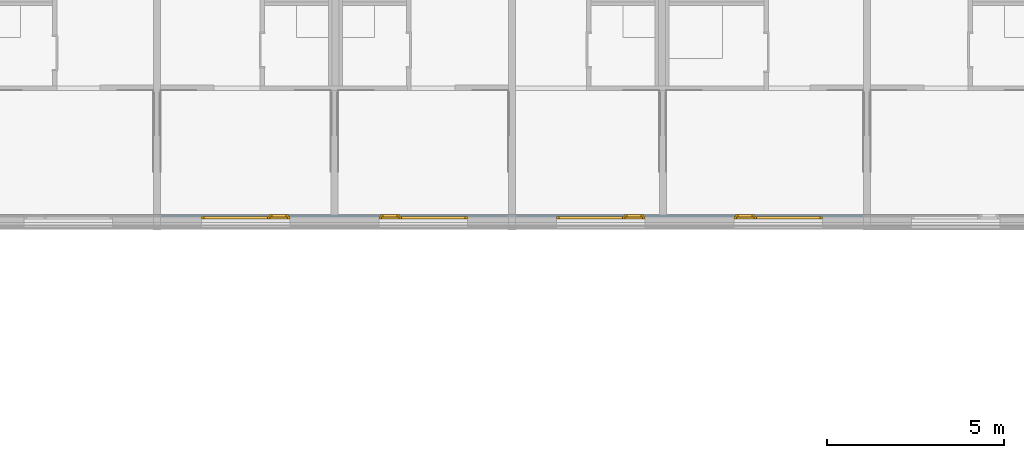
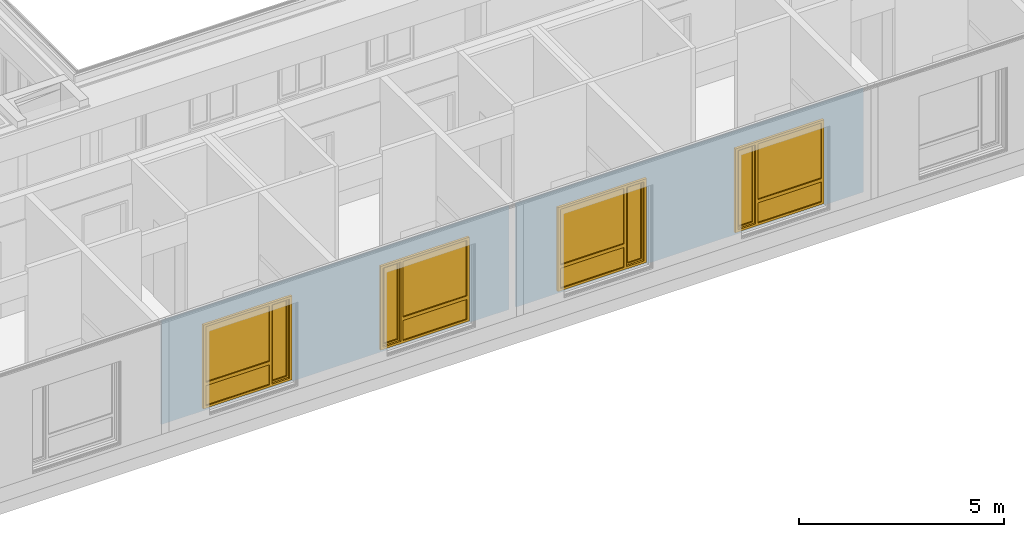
# One storey, part 124 of 207: 4 windows, 4 openings, plus 2 elements that do not belong to this part.
"""IFC4 building model written with IfcOpenShell, lengths in metres."""

from ifc_helpers import new_model, entity, si_unit, converted_unit, derived_unit, frame, frame_2d, origin, origin_with_axes, place, context, subcontext, project, spatial, polyline, rectangle, outline, extrude, closed_shell, open_shell, surface_model, source, transform, mapped, material, element, fill, save


model = new_model("IFC4")

# Units and contexts
model_context = context("Model", 3, precision=1e-05, world=origin())
body_context = subcontext(model_context, "Body", "Model", "MODEL_VIEW")
ifc_project = project(units=[si_unit("LENGTHUNIT", "METRE"), si_unit("AREAUNIT", "SQUARE_METRE"), si_unit("VOLUMEUNIT", "CUBIC_METRE"), si_unit("MASSUNIT", "GRAM", prefix="KILO"), converted_unit("PLANEANGLEUNIT", "DEGREE", entity("IfcPlaneAngleMeasure", 0.0174532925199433), si_unit("PLANEANGLEUNIT", "RADIAN"), dimensions=[0, 0, 0, 0, 0, 0, 0]), derived_unit("THERMALTRANSMITTANCEUNIT", [(si_unit("POWERUNIT", "WATT"), 1), (si_unit("THERMODYNAMICTEMPERATUREUNIT", "KELVIN"), -1), (si_unit("LENGTHUNIT", "METRE"), -2)]), derived_unit("VOLUMETRICFLOWRATEUNIT", [(si_unit("LENGTHUNIT", "METRE"), 3), (converted_unit("TIMEUNIT", "hour", entity("IfcTimeMeasure", 3600.0), si_unit("TIMEUNIT", "SECOND"), dimensions=[0, 0, 1, 0, 0, 0, 0]), -1), (si_unit("LENGTHUNIT", "METRE"), -1)])], contexts=[model_context])

# Site, building, storey
site_placement = place(None, origin())
site = spatial("IfcSite", under=ifc_project, at=site_placement, Name="Psychiatrie Neubau Wunstorf", CompositionType="ELEMENT")
building_placement = place(site_placement, origin())
building = spatial("IfcBuilding", under=site, at=building_placement, Name="Neubau H2 Stationsgebäude", CompositionType="ELEMENT")
storey_placement = place(building_placement, frame((0.0, 0.0, -0.2)))
storey = spatial("IfcBuildingStorey", under=building, at=storey_placement, Name="H2 Ebene 0", CompositionType="ELEMENT", Elevation=-0.2)

# Wall, openings, windows
ifc_material_1 = material(Name="WA-LB")
wall_1_placement = place(storey_placement, frame((95.9, -1.16399999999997, 0.5), z_axis=(0.0, 0.0, 1.0), x_axis=(-1.0, 7.42444654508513e-16, 0.0)))
wall_1 = element("IfcWall", 1, at=wall_1_placement, inside=storey, material=ifc_material_1, context=body_context, shape_type="SweptSolid", body=[
    extrude(rectangle(XDim=9.8, YDim=0.036, at=frame_2d((4.9, 0.018), x_axis=(1.0, 0.0))), origin_with_axes(), (0.0, 0.0, 1.0), 3.1),
])
opening_1_placement = place(wall_1_placement, frame((1.14999995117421, 0.0, 0.1), z_axis=(0.0, 1.0, 0.0), x_axis=(0.0, 0.0, 1.0)))
opening_1 = element("IfcOpeningElement", 2, at=opening_1_placement, cuts=wall_1, Name="Fensteröffnung", ObjectType="Opening", context=body_context, shape_type="SweptSolid", body=[
    extrude(outline(polyline([(2.5, 2.5), (2.5, 0.0), (0.0, 0.0), (0.0, 2.5), (2.5, 2.5)])), origin_with_axes(), (0.0, 0.0, 1.0), 0.036),
])
opening_2_placement = place(wall_1_placement, frame((6.14999995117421, 0.0, 0.1), z_axis=(0.0, 1.0, 0.0), x_axis=(0.0, 0.0, 1.0)))
opening_2 = element("IfcOpeningElement", 3, at=opening_2_placement, cuts=wall_1, Name="Fensteröffnung", ObjectType="Opening", context=body_context, shape_type="SweptSolid", body=[
    extrude(outline(polyline([(2.5, 2.5), (2.5, 0.0), (0.0, 0.0), (0.0, 2.5), (2.5, 2.5)])), origin_with_axes(), (0.0, 0.0, 1.0), 0.036),
])
shared_shape_1 = source(origin_with_axes(), body_context, "Body", "SurfaceModel", [
    surface_model("IfcShellBasedSurfaceModel", [(2.5, 0.0, 2.5), (2.5, 0.0, 0.0), (2.43, 0.0, 0.0), (2.43, 0.0, 2.5), (2.5, 0.0699999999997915, 0.0), (2.5, 0.0699999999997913, 2.5), (2.43, 0.0699999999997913, 2.5), (2.43, 0.0699999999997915, 0.0)], [closed_shell([[[0, 1, 2, 3]], [[4, 5, 6, 7]], [[1, 0, 5, 4]], [[2, 1, 4, 7]], [[3, 2, 7, 6]], [[0, 3, 6, 5]]], orient=[[False], [False], [False], [False], [False], [False]])]),
    surface_model("IfcShellBasedSurfaceModel", [(0.07, 0.0, 2.5), (0.07, 0.0, 0.0), (0.0, 0.0, 0.0), (0.0, 0.0, 2.5), (0.07, 0.0699999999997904, 0.0), (0.07, 0.0699999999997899, 2.5), (0.0, 0.0699999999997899, 2.5), (0.0, 0.0699999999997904, 0.0)], [closed_shell([[[0, 1, 2, 3]], [[4, 5, 6, 7]], [[1, 0, 5, 4]], [[2, 1, 4, 7]], [[3, 2, 7, 6]], [[0, 3, 6, 5]]], orient=[[False], [False], [False], [False], [False], [False]])]),
    surface_model("IfcShellBasedSurfaceModel", [(2.43, 0.0, 0.07), (2.43, 0.0, 0.0), (0.07, 0.0, 0.0), (0.07, 0.0, 0.07), (2.43, 0.0699999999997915, 0.0), (2.43, 0.0699999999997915, 0.07), (0.07, 0.0699999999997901, 0.07), (0.07, 0.0699999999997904, 0.0)], [closed_shell([[[0, 1, 2, 3]], [[4, 5, 6, 7]], [[1, 0, 5, 4]], [[2, 1, 4, 7]], [[3, 2, 7, 6]], [[0, 3, 6, 5]]], orient=[[False], [False], [False], [False], [False], [False]])]),
    surface_model("IfcShellBasedSurfaceModel", [(2.43, 0.0, 2.5), (2.43, 0.0, 2.43), (0.07, 0.0, 2.43), (0.07, 0.0, 2.5), (2.43, 0.0699999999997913, 2.43), (2.43, 0.0699999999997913, 2.5), (0.07, 0.0699999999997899, 2.5), (0.07, 0.0699999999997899, 2.43)], [closed_shell([[[0, 1, 2, 3]], [[4, 5, 6, 7]], [[1, 0, 5, 4]], [[2, 1, 4, 7]], [[3, 2, 7, 6]], [[0, 3, 6, 5]]], orient=[[False], [False], [False], [False], [False], [False]])]),
    surface_model("IfcShellBasedSurfaceModel", [(1.934285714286, 0.0, 2.43), (1.934285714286, 0.0, 0.07), (1.864285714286, 0.0, 0.07), (1.864285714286, 0.0, 2.43), (1.934285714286, 0.0699999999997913, 0.07), (1.934285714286, 0.0699999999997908, 2.43), (1.864285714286, 0.0699999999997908, 2.43), (1.864285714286, 0.0699999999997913, 0.07)], [closed_shell([[[0, 1, 2, 3]], [[4, 5, 6, 7]], [[1, 0, 5, 4]], [[2, 1, 4, 7]], [[3, 2, 7, 6]], [[0, 3, 6, 5]]], orient=[[False], [False], [False], [False], [False], [False]])]),
    surface_model("IfcShellBasedSurfaceModel", [(2.45, -0.0500000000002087, 2.45), (2.45, -0.0500000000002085, 0.05), (2.38, -0.0500000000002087, 0.05), (2.38, -0.050000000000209, 2.45), (2.45, 0.0199999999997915, 0.05), (2.45, 0.0199999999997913, 2.45), (2.38, 0.019999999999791, 2.45), (2.38, 0.0199999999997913, 0.05)], [closed_shell([[[0, 1, 2, 3]], [[4, 5, 6, 7]], [[1, 0, 5, 4]], [[2, 1, 4, 7]], [[3, 2, 7, 6]], [[0, 3, 6, 5]]], orient=[[False], [False], [False], [False], [False], [False]])]),
    surface_model("IfcShellBasedSurfaceModel", [(1.984285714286, -0.0500000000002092, 2.45), (1.984285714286, -0.0500000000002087, 0.05), (1.914285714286, -0.0500000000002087, 0.05), (1.914285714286, -0.0500000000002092, 2.45), (1.984285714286, 0.0199999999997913, 0.05), (1.984285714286, 0.0199999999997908, 2.45), (1.914285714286, 0.0199999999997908, 2.45), (1.914285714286, 0.0199999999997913, 0.05)], [closed_shell([[[0, 1, 2, 3]], [[4, 5, 6, 7]], [[1, 0, 5, 4]], [[2, 1, 4, 7]], [[3, 2, 7, 6]], [[0, 3, 6, 5]]], orient=[[False], [False], [False], [False], [False], [False]])]),
    surface_model("IfcShellBasedSurfaceModel", [(2.38, -0.0500000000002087, 0.12), (2.38, -0.0500000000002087, 0.05), (1.984285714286, -0.0500000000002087, 0.05), (1.984285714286, -0.0500000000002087, 0.12), (2.38, 0.0199999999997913, 0.05), (2.38, 0.0199999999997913, 0.12), (1.984285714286, 0.019999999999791, 0.12), (1.984285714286, 0.0199999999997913, 0.05)], [closed_shell([[[0, 1, 2, 3]], [[4, 5, 6, 7]], [[1, 0, 5, 4]], [[2, 1, 4, 7]], [[3, 2, 7, 6]], [[0, 3, 6, 5]]], orient=[[False], [False], [False], [False], [False], [False]])]),
    surface_model("IfcShellBasedSurfaceModel", [(2.38, -0.050000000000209, 2.45), (2.38, -0.050000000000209, 2.38), (1.984285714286, -0.0500000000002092, 2.38), (1.984285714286, -0.0500000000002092, 2.45), (2.38, 0.019999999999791, 2.38), (2.38, 0.019999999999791, 2.45), (1.984285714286, 0.0199999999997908, 2.45), (1.984285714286, 0.0199999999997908, 2.38)], [closed_shell([[[0, 1, 2, 3]], [[4, 5, 6, 7]], [[1, 0, 5, 4]], [[2, 1, 4, 7]], [[3, 2, 7, 6]], [[0, 3, 6, 5]]], orient=[[False], [False], [False], [False], [False], [False]])]),
    surface_model("IfcShellBasedSurfaceModel", [(1.864285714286, 0.0, 0.77), (1.864285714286, 0.0, 0.67), (0.07, 0.0, 0.67), (0.07, 0.0, 0.77), (1.864285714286, 0.069999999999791, 0.67), (1.864285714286, 0.069999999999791, 0.77), (0.07, 0.0699999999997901, 0.77), (0.07, 0.0699999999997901, 0.67)], [closed_shell([[[0, 1, 2, 3]], [[4, 5, 6, 7]], [[1, 0, 5, 4]], [[2, 1, 4, 7]], [[3, 2, 7, 6]], [[0, 3, 6, 5]]], orient=[[False], [False], [False], [False], [False], [False]])]),
    surface_model("IfcShellBasedSurfaceModel", [(2.38, -0.0150000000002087, 0.12), (1.984285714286, -0.0150000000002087, 0.12), (1.984285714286, -0.0150000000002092, 2.38), (2.38, -0.015000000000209, 2.38)], [open_shell([[[0, 1, 2, 3]]], orient=[[False]])]),
    surface_model("IfcShellBasedSurfaceModel", [(1.864285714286, 0.0349999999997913, 0.07), (0.07, 0.0349999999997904, 0.07), (0.07, 0.0349999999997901, 0.67), (1.864285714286, 0.034999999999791, 0.67)], [open_shell([[[0, 1, 2, 3]]], orient=[[False]])]),
    surface_model("IfcShellBasedSurfaceModel", [(1.864285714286, 0.034999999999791, 0.77), (0.07, 0.0349999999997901, 0.77), (0.07, 0.0349999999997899, 2.43), (1.864285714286, 0.0349999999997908, 2.43)], [open_shell([[[0, 1, 2, 3]]], orient=[[False]])]),
])
window_1_placement = place(opening_1_placement, frame((0.0, 0.0, 0.03), z_axis=(1.0, 0.0, 0.0), x_axis=(0.0, 1.0, 1.48488930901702e-17)))
window_1 = element("IfcWindow", 4, at=window_1_placement, inside=storey, Name="Fenster", OverallHeight=2.5, OverallWidth=2.5, PartitioningType="USERDEFINED", PredefinedType="WINDOW", context=body_context, shape_type="MappedRepresentation", body=[
    mapped(shared_shape_1, transform((0.0, 0.0, 0.0), x_axis=(1.0, 0.0, 0.0), y_axis=(0.0, 1.0, 0.0), z_axis=(0.0, 0.0, 1.0), scale=1.0)),
])
fill(opening_1, window_1)
shared_shape_2 = source(origin_with_axes(), body_context, "Body", "SurfaceModel", [
    surface_model("IfcShellBasedSurfaceModel", [(0.0, 0.0, 2.5), (0.07, 0.0, 2.5), (0.07, 0.0, 0.0), (0.0, 0.0, 0.0), (0.0, 0.0699999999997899, 0.0), (0.07, 0.0699999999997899, 0.0), (0.07, 0.0699999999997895, 2.5), (0.0, 0.0699999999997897, 2.5)], [closed_shell([[[0, 1, 2, 3]], [[4, 5, 6, 7]], [[3, 4, 7, 0]], [[2, 5, 4, 3]], [[1, 6, 5, 2]], [[0, 7, 6, 1]]], orient=[[False], [False], [False], [False], [False], [False]])]),
    surface_model("IfcShellBasedSurfaceModel", [(2.43, 0.0, 2.5), (2.5, 0.0, 2.5), (2.5, 0.0, 0.0), (2.43, 0.0, 0.0), (2.43, 0.069999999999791, 0.0), (2.5, 0.069999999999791, 0.0), (2.5, 0.0699999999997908, 2.5), (2.43, 0.0699999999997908, 2.5)], [closed_shell([[[0, 1, 2, 3]], [[4, 5, 6, 7]], [[3, 4, 7, 0]], [[2, 5, 4, 3]], [[1, 6, 5, 2]], [[0, 7, 6, 1]]], orient=[[False], [False], [False], [False], [False], [False]])]),
    surface_model("IfcShellBasedSurfaceModel", [(0.07, 0.0, 0.07), (2.43, 0.0, 0.07), (2.43, 0.0, 0.0), (0.07, 0.0, 0.0), (0.07, 0.0699999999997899, 0.0), (2.43, 0.069999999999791, 0.0), (2.43, 0.069999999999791, 0.07), (0.07, 0.0699999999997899, 0.07)], [closed_shell([[[0, 1, 2, 3]], [[4, 5, 6, 7]], [[3, 4, 7, 0]], [[2, 5, 4, 3]], [[1, 6, 5, 2]], [[0, 7, 6, 1]]], orient=[[False], [False], [False], [False], [False], [False]])]),
    surface_model("IfcShellBasedSurfaceModel", [(0.07, 0.0, 2.5), (2.43, 0.0, 2.5), (2.43, 0.0, 2.43), (0.07, 0.0, 2.43), (0.07, 0.0699999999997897, 2.43), (2.43, 0.0699999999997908, 2.43), (2.43, 0.0699999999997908, 2.5), (0.07, 0.0699999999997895, 2.5)], [closed_shell([[[0, 1, 2, 3]], [[4, 5, 6, 7]], [[3, 4, 7, 0]], [[2, 5, 4, 3]], [[1, 6, 5, 2]], [[0, 7, 6, 1]]], orient=[[False], [False], [False], [False], [False], [False]])]),
    surface_model("IfcShellBasedSurfaceModel", [(0.565714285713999, 0.0, 2.43), (0.635714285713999, 0.0, 2.43), (0.635714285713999, 0.0, 0.07), (0.565714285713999, 0.0, 0.07), (0.565714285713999, 0.0699999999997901, 0.07), (0.635714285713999, 0.0699999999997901, 0.07), (0.635714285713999, 0.0699999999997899, 2.43), (0.565714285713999, 0.0699999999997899, 2.43)], [closed_shell([[[0, 1, 2, 3]], [[4, 5, 6, 7]], [[3, 4, 7, 0]], [[2, 5, 4, 3]], [[1, 6, 5, 2]], [[0, 7, 6, 1]]], orient=[[False], [False], [False], [False], [False], [False]])]),
    surface_model("IfcShellBasedSurfaceModel", [(0.05, -0.0500000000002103, 2.45), (0.12, -0.0500000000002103, 2.45), (0.12, -0.0500000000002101, 0.05), (0.05, -0.0500000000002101, 0.05), (0.05, 0.0199999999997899, 0.05), (0.12, 0.0199999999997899, 0.05), (0.12, 0.0199999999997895, 2.45), (0.05, 0.0199999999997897, 2.45)], [closed_shell([[[0, 1, 2, 3]], [[4, 5, 6, 7]], [[3, 4, 7, 0]], [[2, 5, 4, 3]], [[1, 6, 5, 2]], [[0, 7, 6, 1]]], orient=[[False], [False], [False], [False], [False], [False]])]),
    surface_model("IfcShellBasedSurfaceModel", [(0.515714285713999, -0.0500000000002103, 2.45), (0.585714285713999, -0.0500000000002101, 2.45), (0.585714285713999, -0.0500000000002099, 0.05), (0.515714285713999, -0.0500000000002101, 0.05), (0.515714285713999, 0.0199999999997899, 0.05), (0.585714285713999, 0.0199999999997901, 0.05), (0.585714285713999, 0.0199999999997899, 2.45), (0.515714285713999, 0.0199999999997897, 2.45)], [closed_shell([[[0, 1, 2, 3]], [[4, 5, 6, 7]], [[3, 4, 7, 0]], [[2, 5, 4, 3]], [[1, 6, 5, 2]], [[0, 7, 6, 1]]], orient=[[False], [False], [False], [False], [False], [False]])]),
    surface_model("IfcShellBasedSurfaceModel", [(0.12, -0.0500000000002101, 0.12), (0.515714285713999, -0.0500000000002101, 0.12), (0.515714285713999, -0.0500000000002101, 0.05), (0.12, -0.0500000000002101, 0.05), (0.12, 0.0199999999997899, 0.05), (0.515714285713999, 0.0199999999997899, 0.05), (0.515714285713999, 0.0199999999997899, 0.12), (0.12, 0.0199999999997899, 0.12)], [closed_shell([[[0, 1, 2, 3]], [[4, 5, 6, 7]], [[3, 4, 7, 0]], [[2, 5, 4, 3]], [[1, 6, 5, 2]], [[0, 7, 6, 1]]], orient=[[False], [False], [False], [False], [False], [False]])]),
    surface_model("IfcShellBasedSurfaceModel", [(0.12, -0.0500000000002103, 2.45), (0.515714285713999, -0.0500000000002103, 2.45), (0.515714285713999, -0.0500000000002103, 2.38), (0.12, -0.0500000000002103, 2.38), (0.12, 0.0199999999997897, 2.38), (0.515714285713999, 0.0199999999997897, 2.38), (0.515714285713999, 0.0199999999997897, 2.45), (0.12, 0.0199999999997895, 2.45)], [closed_shell([[[0, 1, 2, 3]], [[4, 5, 6, 7]], [[3, 4, 7, 0]], [[2, 5, 4, 3]], [[1, 6, 5, 2]], [[0, 7, 6, 1]]], orient=[[False], [False], [False], [False], [False], [False]])]),
    surface_model("IfcShellBasedSurfaceModel", [(0.635714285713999, 0.0, 0.77), (2.43, 0.0, 0.77), (2.43, 0.0, 0.67), (0.635714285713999, 0.0, 0.67), (0.635714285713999, 0.0699999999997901, 0.67), (2.43, 0.069999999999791, 0.67), (2.43, 0.069999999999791, 0.77), (0.635714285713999, 0.0699999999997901, 0.77)], [closed_shell([[[0, 1, 2, 3]], [[4, 5, 6, 7]], [[3, 4, 7, 0]], [[2, 5, 4, 3]], [[1, 6, 5, 2]], [[0, 7, 6, 1]]], orient=[[False], [False], [False], [False], [False], [False]])]),
    surface_model("IfcShellBasedSurfaceModel", [(0.12, -0.0150000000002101, 0.12), (0.12, -0.0150000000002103, 2.38), (0.515714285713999, -0.0150000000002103, 2.38), (0.515714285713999, -0.0150000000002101, 0.12)], [open_shell([[[0, 1, 2, 3]]], orient=[[False]])]),
    surface_model("IfcShellBasedSurfaceModel", [(0.635714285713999, 0.0349999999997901, 0.07), (0.635714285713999, 0.0349999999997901, 0.67), (2.43, 0.034999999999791, 0.67), (2.43, 0.034999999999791, 0.07)], [open_shell([[[0, 1, 2, 3]]], orient=[[False]])]),
    surface_model("IfcShellBasedSurfaceModel", [(0.635714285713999, 0.0349999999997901, 0.77), (0.635714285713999, 0.0349999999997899, 2.43), (2.43, 0.0349999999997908, 2.43), (2.43, 0.034999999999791, 0.77)], [open_shell([[[0, 1, 2, 3]]], orient=[[False]])]),
])
window_2_placement = place(opening_2_placement, frame((0.0, 0.0, 0.03), z_axis=(1.0, 0.0, 0.0), x_axis=(0.0, 1.0, 1.48488930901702e-17)))
window_2 = element("IfcWindow", 5, at=window_2_placement, inside=storey, Name="Fenster", OverallHeight=2.5, OverallWidth=2.5, PartitioningType="USERDEFINED", PredefinedType="WINDOW", context=body_context, shape_type="MappedRepresentation", body=[
    mapped(shared_shape_2, transform((0.0, 0.0, 0.0), x_axis=(1.0, 0.0, 0.0), y_axis=(0.0, 1.0, 0.0), z_axis=(0.0, 0.0, 1.0), scale=1.0)),
])
fill(opening_2, window_2)

ifc_material_2 = material(Name="WA-LB")
wall_2_placement = place(storey_placement, frame((85.9, -1.16399999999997, 0.5), z_axis=(0.0, 0.0, 1.0), x_axis=(-1.0, 7.42444654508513e-16, 0.0)))
wall_2 = element("IfcWall", 6, at=wall_2_placement, inside=storey, material=ifc_material_2, context=body_context, shape_type="SweptSolid", body=[
    extrude(rectangle(XDim=9.8, YDim=0.036, at=frame_2d((4.9, 0.018), x_axis=(1.0, 0.0))), origin_with_axes(), (0.0, 0.0, 1.0), 3.1),
])
opening_3_placement = place(wall_2_placement, frame((1.14999995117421, 0.0, 0.1), z_axis=(0.0, 1.0, 0.0), x_axis=(0.0, 0.0, 1.0)))
opening_3 = element("IfcOpeningElement", 7, at=opening_3_placement, cuts=wall_2, Name="Fensteröffnung", ObjectType="Opening", context=body_context, shape_type="SweptSolid", body=[
    extrude(outline(polyline([(2.5, 2.5), (2.5, 0.0), (0.0, 0.0), (0.0, 2.5), (2.5, 2.5)])), origin_with_axes(), (0.0, 0.0, 1.0), 0.036),
])
opening_4_placement = place(wall_2_placement, frame((6.14999995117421, 0.0, 0.1), z_axis=(0.0, 1.0, 0.0), x_axis=(0.0, 0.0, 1.0)))
opening_4 = element("IfcOpeningElement", 8, at=opening_4_placement, cuts=wall_2, Name="Fensteröffnung", ObjectType="Opening", context=body_context, shape_type="SweptSolid", body=[
    extrude(outline(polyline([(2.5, 2.5), (2.5, 0.0), (0.0, 0.0), (0.0, 2.5), (2.5, 2.5)])), origin_with_axes(), (0.0, 0.0, 1.0), 0.036),
])
shared_shape_3 = source(origin_with_axes(), body_context, "Body", "SurfaceModel", [
    surface_model("IfcShellBasedSurfaceModel", [(2.5, 0.0, 2.5), (2.5, 0.0, 0.0), (2.43, 0.0, 0.0), (2.43, 0.0, 2.5), (2.5, 0.0699999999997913, 0.0), (2.5, 0.069999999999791, 2.5), (2.43, 0.069999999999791, 2.5), (2.43, 0.0699999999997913, 0.0)], [closed_shell([[[0, 1, 2, 3]], [[4, 5, 6, 7]], [[1, 0, 5, 4]], [[2, 1, 4, 7]], [[3, 2, 7, 6]], [[0, 3, 6, 5]]], orient=[[False], [False], [False], [False], [False], [False]])]),
    surface_model("IfcShellBasedSurfaceModel", [(0.07, 0.0, 2.5), (0.07, 0.0, 0.0), (0.0, 0.0, 0.0), (0.0, 0.0, 2.5), (0.07, 0.0699999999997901, 0.0), (0.07, 0.0699999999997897, 2.5), (0.0, 0.0699999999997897, 2.5), (0.0, 0.0699999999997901, 0.0)], [closed_shell([[[0, 1, 2, 3]], [[4, 5, 6, 7]], [[1, 0, 5, 4]], [[2, 1, 4, 7]], [[3, 2, 7, 6]], [[0, 3, 6, 5]]], orient=[[False], [False], [False], [False], [False], [False]])]),
    surface_model("IfcShellBasedSurfaceModel", [(2.43, 0.0, 0.07), (2.43, 0.0, 0.0), (0.07, 0.0, 0.0), (0.07, 0.0, 0.07), (2.43, 0.0699999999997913, 0.0), (2.43, 0.0699999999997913, 0.07), (0.07, 0.0699999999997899, 0.07), (0.07, 0.0699999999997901, 0.0)], [closed_shell([[[0, 1, 2, 3]], [[4, 5, 6, 7]], [[1, 0, 5, 4]], [[2, 1, 4, 7]], [[3, 2, 7, 6]], [[0, 3, 6, 5]]], orient=[[False], [False], [False], [False], [False], [False]])]),
    surface_model("IfcShellBasedSurfaceModel", [(2.43, 0.0, 2.5), (2.43, 0.0, 2.43), (0.07, 0.0, 2.43), (0.07, 0.0, 2.5), (2.43, 0.069999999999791, 2.43), (2.43, 0.069999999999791, 2.5), (0.07, 0.0699999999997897, 2.5), (0.07, 0.0699999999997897, 2.43)], [closed_shell([[[0, 1, 2, 3]], [[4, 5, 6, 7]], [[1, 0, 5, 4]], [[2, 1, 4, 7]], [[3, 2, 7, 6]], [[0, 3, 6, 5]]], orient=[[False], [False], [False], [False], [False], [False]])]),
    surface_model("IfcShellBasedSurfaceModel", [(1.934285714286, 0.0, 2.43), (1.934285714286, 0.0, 0.07), (1.864285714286, 0.0, 0.07), (1.864285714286, 0.0, 2.43), (1.934285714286, 0.069999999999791, 0.07), (1.934285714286, 0.0699999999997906, 2.43), (1.864285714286, 0.0699999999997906, 2.43), (1.864285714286, 0.069999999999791, 0.07)], [closed_shell([[[0, 1, 2, 3]], [[4, 5, 6, 7]], [[1, 0, 5, 4]], [[2, 1, 4, 7]], [[3, 2, 7, 6]], [[0, 3, 6, 5]]], orient=[[False], [False], [False], [False], [False], [False]])]),
    surface_model("IfcShellBasedSurfaceModel", [(2.45, -0.050000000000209, 2.45), (2.45, -0.0500000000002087, 0.05), (2.38, -0.050000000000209, 0.05), (2.38, -0.0500000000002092, 2.45), (2.45, 0.0199999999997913, 0.05), (2.45, 0.019999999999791, 2.45), (2.38, 0.0199999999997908, 2.45), (2.38, 0.019999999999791, 0.05)], [closed_shell([[[0, 1, 2, 3]], [[4, 5, 6, 7]], [[1, 0, 5, 4]], [[2, 1, 4, 7]], [[3, 2, 7, 6]], [[0, 3, 6, 5]]], orient=[[False], [False], [False], [False], [False], [False]])]),
    surface_model("IfcShellBasedSurfaceModel", [(1.984285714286, -0.0500000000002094, 2.45), (1.984285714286, -0.050000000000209, 0.05), (1.914285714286, -0.050000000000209, 0.05), (1.914285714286, -0.0500000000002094, 2.45), (1.984285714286, 0.019999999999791, 0.05), (1.984285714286, 0.0199999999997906, 2.45), (1.914285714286, 0.0199999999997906, 2.45), (1.914285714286, 0.019999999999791, 0.05)], [closed_shell([[[0, 1, 2, 3]], [[4, 5, 6, 7]], [[1, 0, 5, 4]], [[2, 1, 4, 7]], [[3, 2, 7, 6]], [[0, 3, 6, 5]]], orient=[[False], [False], [False], [False], [False], [False]])]),
    surface_model("IfcShellBasedSurfaceModel", [(2.38, -0.050000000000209, 0.12), (2.38, -0.050000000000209, 0.05), (1.984285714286, -0.050000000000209, 0.05), (1.984285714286, -0.050000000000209, 0.12), (2.38, 0.019999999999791, 0.05), (2.38, 0.019999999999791, 0.12), (1.984285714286, 0.0199999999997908, 0.12), (1.984285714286, 0.019999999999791, 0.05)], [closed_shell([[[0, 1, 2, 3]], [[4, 5, 6, 7]], [[1, 0, 5, 4]], [[2, 1, 4, 7]], [[3, 2, 7, 6]], [[0, 3, 6, 5]]], orient=[[False], [False], [False], [False], [False], [False]])]),
    surface_model("IfcShellBasedSurfaceModel", [(2.38, -0.0500000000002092, 2.45), (2.38, -0.0500000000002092, 2.38), (1.984285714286, -0.0500000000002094, 2.38), (1.984285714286, -0.0500000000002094, 2.45), (2.38, 0.0199999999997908, 2.38), (2.38, 0.0199999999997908, 2.45), (1.984285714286, 0.0199999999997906, 2.45), (1.984285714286, 0.0199999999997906, 2.38)], [closed_shell([[[0, 1, 2, 3]], [[4, 5, 6, 7]], [[1, 0, 5, 4]], [[2, 1, 4, 7]], [[3, 2, 7, 6]], [[0, 3, 6, 5]]], orient=[[False], [False], [False], [False], [False], [False]])]),
    surface_model("IfcShellBasedSurfaceModel", [(1.864285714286, 0.0, 0.77), (1.864285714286, 0.0, 0.67), (0.07, 0.0, 0.67), (0.07, 0.0, 0.77), (1.864285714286, 0.0699999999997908, 0.67), (1.864285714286, 0.0699999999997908, 0.77), (0.07, 0.0699999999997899, 0.77), (0.07, 0.0699999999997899, 0.67)], [closed_shell([[[0, 1, 2, 3]], [[4, 5, 6, 7]], [[1, 0, 5, 4]], [[2, 1, 4, 7]], [[3, 2, 7, 6]], [[0, 3, 6, 5]]], orient=[[False], [False], [False], [False], [False], [False]])]),
    surface_model("IfcShellBasedSurfaceModel", [(2.38, -0.015000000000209, 0.12), (1.984285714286, -0.015000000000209, 0.12), (1.984285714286, -0.0150000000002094, 2.38), (2.38, -0.0150000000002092, 2.38)], [open_shell([[[0, 1, 2, 3]]], orient=[[False]])]),
    surface_model("IfcShellBasedSurfaceModel", [(1.864285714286, 0.034999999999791, 0.07), (0.07, 0.0349999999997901, 0.07), (0.07, 0.0349999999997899, 0.67), (1.864285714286, 0.0349999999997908, 0.67)], [open_shell([[[0, 1, 2, 3]]], orient=[[False]])]),
    surface_model("IfcShellBasedSurfaceModel", [(1.864285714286, 0.0349999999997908, 0.77), (0.07, 0.0349999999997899, 0.77), (0.07, 0.0349999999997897, 2.43), (1.864285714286, 0.0349999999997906, 2.43)], [open_shell([[[0, 1, 2, 3]]], orient=[[False]])]),
])
window_3_placement = place(opening_3_placement, frame((0.0, 0.0, 0.03), z_axis=(1.0, 0.0, 0.0), x_axis=(0.0, 1.0, 1.48488930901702e-17)))
window_3 = element("IfcWindow", 9, at=window_3_placement, inside=storey, Name="Fenster", OverallHeight=2.5, OverallWidth=2.5, PartitioningType="USERDEFINED", PredefinedType="WINDOW", context=body_context, shape_type="MappedRepresentation", body=[
    mapped(shared_shape_3, transform((0.0, 0.0, 0.0), x_axis=(1.0, 0.0, 0.0), y_axis=(0.0, 1.0, 0.0), z_axis=(0.0, 0.0, 1.0), scale=1.0)),
])
fill(opening_3, window_3)
shared_shape_4 = source(origin_with_axes(), body_context, "Body", "SurfaceModel", [
    surface_model("IfcShellBasedSurfaceModel", [(0.0, 0.0, 2.5), (0.07, 0.0, 2.5), (0.07, 0.0, 0.0), (0.0, 0.0, 0.0), (0.0, 0.0699999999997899, 0.0), (0.07, 0.0699999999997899, 0.0), (0.07, 0.0699999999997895, 2.5), (0.0, 0.0699999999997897, 2.5)], [closed_shell([[[0, 1, 2, 3]], [[4, 5, 6, 7]], [[3, 4, 7, 0]], [[2, 5, 4, 3]], [[1, 6, 5, 2]], [[0, 7, 6, 1]]], orient=[[False], [False], [False], [False], [False], [False]])]),
    surface_model("IfcShellBasedSurfaceModel", [(2.43, 0.0, 2.5), (2.5, 0.0, 2.5), (2.5, 0.0, 0.0), (2.43, 0.0, 0.0), (2.43, 0.069999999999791, 0.0), (2.5, 0.069999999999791, 0.0), (2.5, 0.0699999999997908, 2.5), (2.43, 0.0699999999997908, 2.5)], [closed_shell([[[0, 1, 2, 3]], [[4, 5, 6, 7]], [[3, 4, 7, 0]], [[2, 5, 4, 3]], [[1, 6, 5, 2]], [[0, 7, 6, 1]]], orient=[[False], [False], [False], [False], [False], [False]])]),
    surface_model("IfcShellBasedSurfaceModel", [(0.07, 0.0, 0.07), (2.43, 0.0, 0.07), (2.43, 0.0, 0.0), (0.07, 0.0, 0.0), (0.07, 0.0699999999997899, 0.0), (2.43, 0.069999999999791, 0.0), (2.43, 0.069999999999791, 0.07), (0.07, 0.0699999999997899, 0.07)], [closed_shell([[[0, 1, 2, 3]], [[4, 5, 6, 7]], [[3, 4, 7, 0]], [[2, 5, 4, 3]], [[1, 6, 5, 2]], [[0, 7, 6, 1]]], orient=[[False], [False], [False], [False], [False], [False]])]),
    surface_model("IfcShellBasedSurfaceModel", [(0.07, 0.0, 2.5), (2.43, 0.0, 2.5), (2.43, 0.0, 2.43), (0.07, 0.0, 2.43), (0.07, 0.0699999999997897, 2.43), (2.43, 0.0699999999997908, 2.43), (2.43, 0.0699999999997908, 2.5), (0.07, 0.0699999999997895, 2.5)], [closed_shell([[[0, 1, 2, 3]], [[4, 5, 6, 7]], [[3, 4, 7, 0]], [[2, 5, 4, 3]], [[1, 6, 5, 2]], [[0, 7, 6, 1]]], orient=[[False], [False], [False], [False], [False], [False]])]),
    surface_model("IfcShellBasedSurfaceModel", [(0.565714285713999, 0.0, 2.43), (0.635714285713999, 0.0, 2.43), (0.635714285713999, 0.0, 0.07), (0.565714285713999, 0.0, 0.07), (0.565714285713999, 0.0699999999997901, 0.07), (0.635714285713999, 0.0699999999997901, 0.07), (0.635714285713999, 0.0699999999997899, 2.43), (0.565714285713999, 0.0699999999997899, 2.43)], [closed_shell([[[0, 1, 2, 3]], [[4, 5, 6, 7]], [[3, 4, 7, 0]], [[2, 5, 4, 3]], [[1, 6, 5, 2]], [[0, 7, 6, 1]]], orient=[[False], [False], [False], [False], [False], [False]])]),
    surface_model("IfcShellBasedSurfaceModel", [(0.05, -0.0500000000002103, 2.45), (0.12, -0.0500000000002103, 2.45), (0.12, -0.0500000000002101, 0.05), (0.05, -0.0500000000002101, 0.05), (0.05, 0.0199999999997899, 0.05), (0.12, 0.0199999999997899, 0.05), (0.12, 0.0199999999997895, 2.45), (0.05, 0.0199999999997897, 2.45)], [closed_shell([[[0, 1, 2, 3]], [[4, 5, 6, 7]], [[3, 4, 7, 0]], [[2, 5, 4, 3]], [[1, 6, 5, 2]], [[0, 7, 6, 1]]], orient=[[False], [False], [False], [False], [False], [False]])]),
    surface_model("IfcShellBasedSurfaceModel", [(0.515714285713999, -0.0500000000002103, 2.45), (0.585714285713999, -0.0500000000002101, 2.45), (0.585714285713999, -0.0500000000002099, 0.05), (0.515714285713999, -0.0500000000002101, 0.05), (0.515714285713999, 0.0199999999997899, 0.05), (0.585714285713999, 0.0199999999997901, 0.05), (0.585714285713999, 0.0199999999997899, 2.45), (0.515714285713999, 0.0199999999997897, 2.45)], [closed_shell([[[0, 1, 2, 3]], [[4, 5, 6, 7]], [[3, 4, 7, 0]], [[2, 5, 4, 3]], [[1, 6, 5, 2]], [[0, 7, 6, 1]]], orient=[[False], [False], [False], [False], [False], [False]])]),
    surface_model("IfcShellBasedSurfaceModel", [(0.12, -0.0500000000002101, 0.12), (0.515714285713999, -0.0500000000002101, 0.12), (0.515714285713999, -0.0500000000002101, 0.05), (0.12, -0.0500000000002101, 0.05), (0.12, 0.0199999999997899, 0.05), (0.515714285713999, 0.0199999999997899, 0.05), (0.515714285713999, 0.0199999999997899, 0.12), (0.12, 0.0199999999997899, 0.12)], [closed_shell([[[0, 1, 2, 3]], [[4, 5, 6, 7]], [[3, 4, 7, 0]], [[2, 5, 4, 3]], [[1, 6, 5, 2]], [[0, 7, 6, 1]]], orient=[[False], [False], [False], [False], [False], [False]])]),
    surface_model("IfcShellBasedSurfaceModel", [(0.12, -0.0500000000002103, 2.45), (0.515714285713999, -0.0500000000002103, 2.45), (0.515714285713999, -0.0500000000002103, 2.38), (0.12, -0.0500000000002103, 2.38), (0.12, 0.0199999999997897, 2.38), (0.515714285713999, 0.0199999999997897, 2.38), (0.515714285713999, 0.0199999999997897, 2.45), (0.12, 0.0199999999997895, 2.45)], [closed_shell([[[0, 1, 2, 3]], [[4, 5, 6, 7]], [[3, 4, 7, 0]], [[2, 5, 4, 3]], [[1, 6, 5, 2]], [[0, 7, 6, 1]]], orient=[[False], [False], [False], [False], [False], [False]])]),
    surface_model("IfcShellBasedSurfaceModel", [(0.635714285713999, 0.0, 0.77), (2.43, 0.0, 0.77), (2.43, 0.0, 0.67), (0.635714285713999, 0.0, 0.67), (0.635714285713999, 0.0699999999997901, 0.67), (2.43, 0.069999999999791, 0.67), (2.43, 0.069999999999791, 0.77), (0.635714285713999, 0.0699999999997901, 0.77)], [closed_shell([[[0, 1, 2, 3]], [[4, 5, 6, 7]], [[3, 4, 7, 0]], [[2, 5, 4, 3]], [[1, 6, 5, 2]], [[0, 7, 6, 1]]], orient=[[False], [False], [False], [False], [False], [False]])]),
    surface_model("IfcShellBasedSurfaceModel", [(0.12, -0.0150000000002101, 0.12), (0.12, -0.0150000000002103, 2.38), (0.515714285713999, -0.0150000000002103, 2.38), (0.515714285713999, -0.0150000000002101, 0.12)], [open_shell([[[0, 1, 2, 3]]], orient=[[False]])]),
    surface_model("IfcShellBasedSurfaceModel", [(0.635714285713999, 0.0349999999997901, 0.07), (0.635714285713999, 0.0349999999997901, 0.67), (2.43, 0.034999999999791, 0.67), (2.43, 0.034999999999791, 0.07)], [open_shell([[[0, 1, 2, 3]]], orient=[[False]])]),
    surface_model("IfcShellBasedSurfaceModel", [(0.635714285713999, 0.0349999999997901, 0.77), (0.635714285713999, 0.0349999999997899, 2.43), (2.43, 0.0349999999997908, 2.43), (2.43, 0.034999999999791, 0.77)], [open_shell([[[0, 1, 2, 3]]], orient=[[False]])]),
])
window_4_placement = place(opening_4_placement, frame((0.0, 0.0, 0.03), z_axis=(1.0, 0.0, 0.0), x_axis=(0.0, 1.0, 1.48488930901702e-17)))
window_4 = element("IfcWindow", 10, at=window_4_placement, inside=storey, Name="Fenster", OverallHeight=2.5, OverallWidth=2.5, PartitioningType="USERDEFINED", PredefinedType="WINDOW", context=body_context, shape_type="MappedRepresentation", body=[
    mapped(shared_shape_4, transform((0.0, 0.0, 0.0), x_axis=(1.0, 0.0, 0.0), y_axis=(0.0, 1.0, 0.0), z_axis=(0.0, 0.0, 1.0), scale=1.0)),
])
fill(opening_4, window_4)

save(model, "model.ifc")
